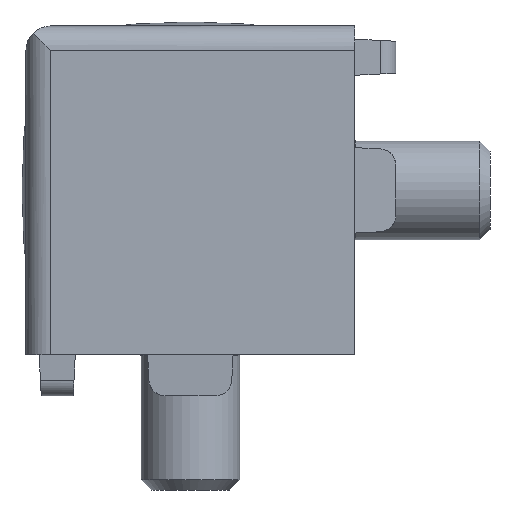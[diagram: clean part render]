
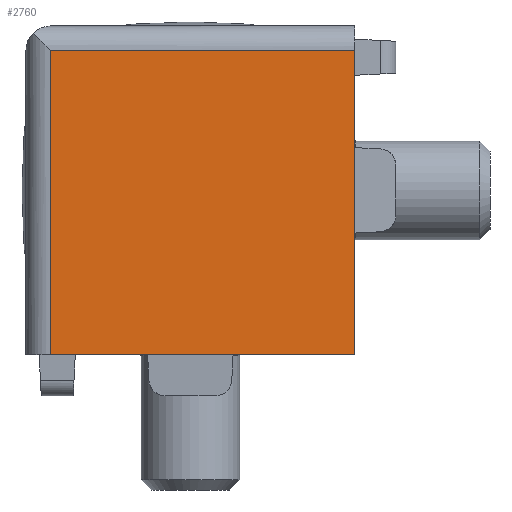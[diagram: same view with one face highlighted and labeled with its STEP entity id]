
A CAD part, left-side view. The second image highlights one B-rep face of the part: STEP entity #2760.
In plain terms, the highlighted planar face has unit normal (-1, 0, 0).
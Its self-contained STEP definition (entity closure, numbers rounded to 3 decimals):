
#533=ORIENTED_EDGE('',*,*,#1206,.F.);
#534=ORIENTED_EDGE('',*,*,#1273,.F.);
#535=ORIENTED_EDGE('',*,*,#1269,.T.);
#536=ORIENTED_EDGE('',*,*,#1231,.T.);
#1206=EDGE_CURVE('',#1563,#1564,#1836,.T.);
#1231=EDGE_CURVE('',#1578,#1564,#1852,.T.);
#1269=EDGE_CURVE('',#1612,#1578,#1870,.T.);
#1273=EDGE_CURVE('',#1612,#1563,#1872,.T.);
#1563=VERTEX_POINT('',#4418);
#1564=VERTEX_POINT('',#4420);
#1578=VERTEX_POINT('',#4451);
#1612=VERTEX_POINT('',#4537);
#1836=LINE('',#4419,#2089);
#1852=LINE('',#4466,#2105);
#1870=LINE('',#4536,#2123);
#1872=LINE('',#4544,#2125);
#2089=VECTOR('',#3496,1000.);
#2105=VECTOR('',#3532,1000.);
#2123=VECTOR('',#3600,1000.);
#2125=VECTOR('',#3608,1000.);
#2279=EDGE_LOOP('',(#533,#534,#535,#536));
#2478=FACE_BOUND('',#2279,.T.);
#2652=PLANE('',#3029);
#2760=ADVANCED_FACE('',(#2478),#2652,.F.);
#3029=AXIS2_PLACEMENT_3D('',#4543,#3606,#3607);
#3496=DIRECTION('',(0.,0.,-1.));
#3532=DIRECTION('',(0.,-1.,0.));
#3600=DIRECTION('',(0.,0.,-1.));
#3606=DIRECTION('',(1.,0.,0.));
#3607=DIRECTION('',(0.,0.,-1.));
#3608=DIRECTION('',(0.,-1.,0.));
#4418=CARTESIAN_POINT('',(-10.,-10.,8.5));
#4419=CARTESIAN_POINT('',(-10.,-10.,10.));
#4420=CARTESIAN_POINT('',(-10.,-10.,-10.));
#4451=CARTESIAN_POINT('',(-10.,8.5,-10.));
#4466=CARTESIAN_POINT('',(-10.,8.5,-10.));
#4536=CARTESIAN_POINT('',(-10.,8.5,10.));
#4537=CARTESIAN_POINT('',(-10.,8.5,8.5));
#4543=CARTESIAN_POINT('',(-10.,8.5,10.));
#4544=CARTESIAN_POINT('',(-10.,10.,8.5));
